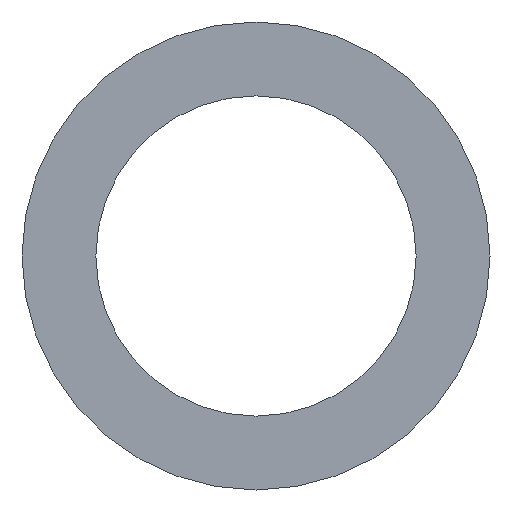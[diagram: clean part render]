
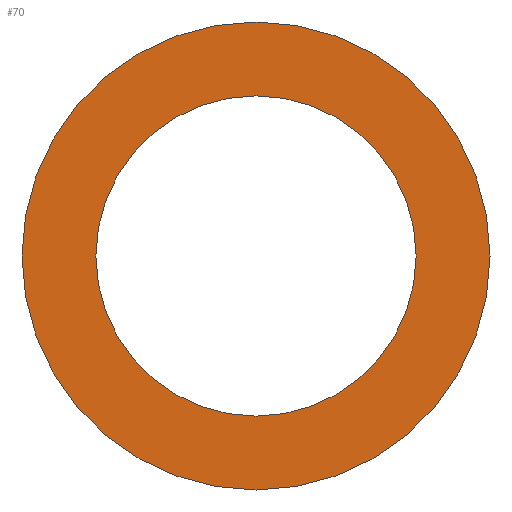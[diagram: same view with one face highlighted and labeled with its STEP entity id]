
A CAD part, left-side view. The second image highlights one B-rep face of the part: STEP entity #70.
In plain terms, the highlighted planar face has unit normal (-1, 0, 0).
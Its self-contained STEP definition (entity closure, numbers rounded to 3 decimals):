
#31 = VERTEX_POINT('',#32);
#32 = CARTESIAN_POINT('',(-62.7,0.,110.55));
#38 = EDGE_CURVE('',#31,#31,#39,.T.);
#39 = CIRCLE('',#40,9.5);
#40 = AXIS2_PLACEMENT_3D('',#41,#42,#43);
#41 = CARTESIAN_POINT('',(-62.7,0.,101.05));
#42 = DIRECTION('',(1.,0.,-0.));
#43 = DIRECTION('',(0.,0.,1.));
#70 = ADVANCED_FACE('',(#71,#74),#85,.F.);
#71 = FACE_BOUND('',#72,.F.);
#72 = EDGE_LOOP('',(#73));
#73 = ORIENTED_EDGE('',*,*,#38,.T.);
#74 = FACE_BOUND('',#75,.F.);
#75 = EDGE_LOOP('',(#76));
#76 = ORIENTED_EDGE('',*,*,#77,.F.);
#77 = EDGE_CURVE('',#78,#78,#80,.T.);
#78 = VERTEX_POINT('',#79);
#79 = CARTESIAN_POINT('',(-62.7,0.,107.55));
#80 = CIRCLE('',#81,6.5);
#81 = AXIS2_PLACEMENT_3D('',#82,#83,#84);
#82 = CARTESIAN_POINT('',(-62.7,0.,101.05));
#83 = DIRECTION('',(1.,0.,-0.));
#84 = DIRECTION('',(0.,0.,1.));
#85 = PLANE('',#86);
#86 = AXIS2_PLACEMENT_3D('',#87,#88,#89);
#87 = CARTESIAN_POINT('',(-62.7,0.,101.05));
#88 = DIRECTION('',(1.,0.,0.));
#89 = DIRECTION('',(0.,0.,1.));
